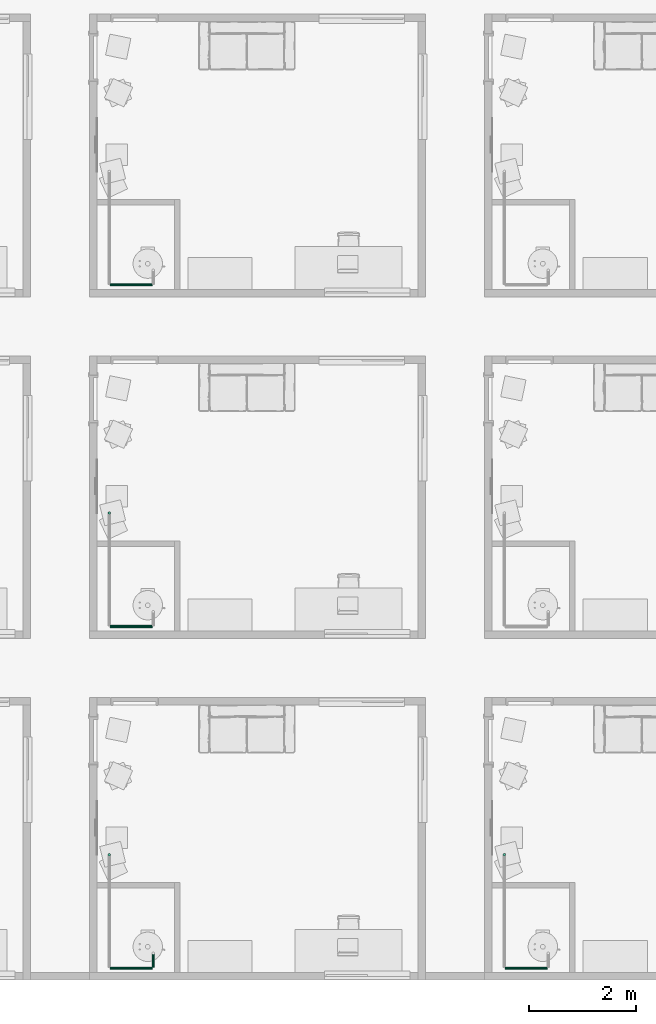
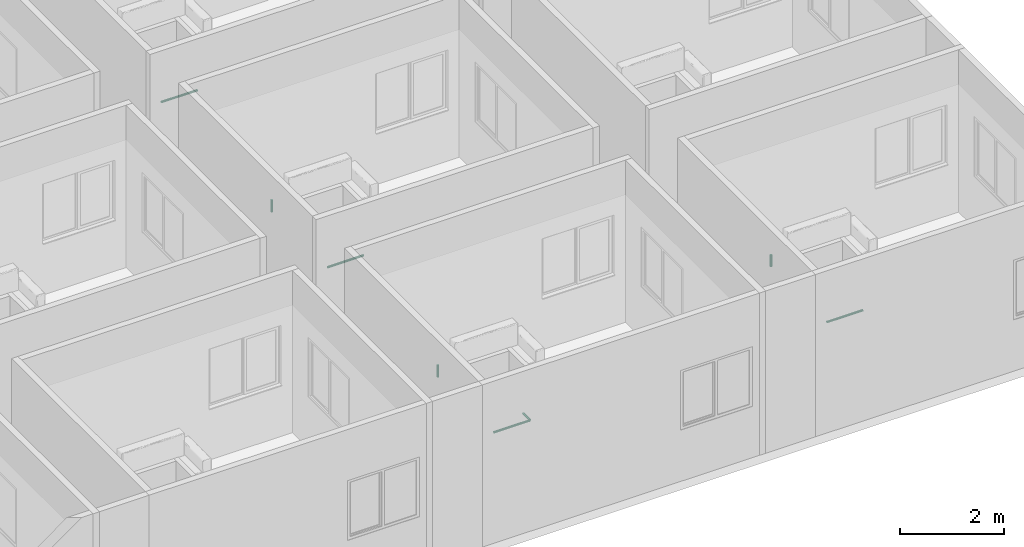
# One storey, part 49 of 69: 8 pipe segments.
"""IFC4 building model written with IfcOpenShell, lengths in centimetres."""

from ifc_helpers import new_model, entity, si_unit, converted_unit, derived_unit, direction, frame, origin, place, context, subcontext, project, spatial, arc, indexed_curve, outline, extrude, type_object, element, save


model = new_model("IFC4")

# Units and contexts
model_context = context("Model", 3, precision=0.001, world=origin(), true_north=direction((6.123233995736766e-17, 1.0)))
body_context = subcontext(model_context, "Body", "Model", "MODEL_VIEW")
ifc_project = project(units=[si_unit("LENGTHUNIT", "METRE", prefix="CENTI"), si_unit("AREAUNIT", "SQUARE_METRE"), si_unit("VOLUMEUNIT", "CUBIC_METRE"), derived_unit("THERMALTRANSMITTANCEUNIT", [(si_unit("MASSUNIT", "GRAM", prefix="KILO"), 1), (si_unit("THERMODYNAMICTEMPERATUREUNIT", "KELVIN"), -1), (si_unit("TIMEUNIT", "SECOND"), -3)]), converted_unit("PLANEANGLEUNIT", "DEGREE", entity("IfcPlaneAngleMeasure", 0.017453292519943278), si_unit("PLANEANGLEUNIT", "RADIAN"), dimensions=[0, 0, 0, 0, 0, 0, 0]), derived_unit("MASSDENSITYUNIT", [(si_unit("MASSUNIT", "GRAM", prefix="KILO"), 1), (si_unit("LENGTHUNIT", "METRE"), -3)]), derived_unit("VAPORPERMEABILITYUNIT", [(si_unit("LENGTHUNIT", "METRE"), -1), (si_unit("TIMEUNIT", "SECOND"), 1)]), derived_unit("USERDEFINED", [(si_unit("MASSUNIT", "GRAM", prefix="KILO"), 1), (si_unit("TIMEUNIT", "SECOND"), -3), (si_unit("LENGTHUNIT", "METRE"), 3), (si_unit("ELECTRICCURRENTUNIT", "AMPERE"), -2)]), derived_unit("SPECIFICHEATCAPACITYUNIT", [(si_unit("THERMODYNAMICTEMPERATUREUNIT", "KELVIN"), -1), (si_unit("LENGTHUNIT", "METRE"), 2), (si_unit("TIMEUNIT", "SECOND"), -2)]), derived_unit("THERMALCONDUCTANCEUNIT", [(si_unit("MASSUNIT", "GRAM", prefix="KILO"), 1), (si_unit("THERMODYNAMICTEMPERATUREUNIT", "KELVIN"), -1), (si_unit("TIMEUNIT", "SECOND"), -3), (si_unit("LENGTHUNIT", "METRE"), 1)]), si_unit("PRESSUREUNIT", "PASCAL"), derived_unit("MODULUSOFELASTICITYUNIT", [(si_unit("MASSUNIT", "GRAM", prefix="KILO"), 1), (si_unit("LENGTHUNIT", "METRE"), -1), (si_unit("TIMEUNIT", "SECOND"), -2)]), derived_unit("THERMALEXPANSIONCOEFFICIENTUNIT", [(si_unit("THERMODYNAMICTEMPERATUREUNIT", "KELVIN"), -1)])], contexts=[model_context])

# Site, building, storey
site_placement = place(None, origin())
site = spatial("IfcSite", under=ifc_project, at=site_placement, Name="Default", CompositionType="ELEMENT")
building_placement = place(site_placement, origin())
building = spatial("IfcBuilding", under=site, at=building_placement, Name="IDS Escape Game Building", CompositionType="ELEMENT")
storey_placement = place(building_placement, origin())
storey = spatial("IfcBuildingStorey", under=building, at=storey_placement, Name="00_Ground Floor", CompositionType="ELEMENT", Elevation=0.0)

# Pipe segments
pipe_segment_type = type_object("IfcPipeSegmentType", Name="Pipe Types:Piping Aluminum", PredefinedType="NOTDEFINED")
pipe_segment_1_placement = place(storey_placement, origin())
element("IfcPipeSegment", 1, at=pipe_segment_1_placement, inside=storey, type_object=pipe_segment_type, Name="Pipe Types:Piping Aluminum", ObjectType="Pipe Types:Piping Aluminum", PredefinedType="NOTDEFINED", context=body_context, shape_type="SweptSolid", body=[
    extrude(outline(indexed_curve([(2.412999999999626, -2.165734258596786e-13), (1.7062486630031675, 1.7062486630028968), (3.790034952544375e-13, 2.4130000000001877), (-1.7062486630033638, 1.7062486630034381), (-2.4130000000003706, -1.6243006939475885e-13), (-1.706248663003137, -1.7062486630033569), (3.654676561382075e-13, -2.412999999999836), (1.7062486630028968, -1.7062486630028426)], segments=[arc(1, 2, 3), arc(3, 4, 5), arc(5, 6, 7), arc(7, 8, 1)], self_intersect=False)), frame((3721.1467168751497, 21.264827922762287, 242.0), z_axis=(1.0, 0.0, 0.0), x_axis=(0.0, 1.0, 0.0)), (0.0, 0.0, 1.0), 79.90328312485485),
])
pipe_segment_2_placement = place(storey_placement, origin())
element("IfcPipeSegment", 2, at=pipe_segment_2_placement, inside=storey, type_object=pipe_segment_type, Name="Pipe Types:Piping Aluminum", ObjectType="Pipe Types:Piping Aluminum", PredefinedType="NOTDEFINED", context=body_context, shape_type="SweptSolid", body=[
    extrude(outline(indexed_curve([(2.4129999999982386, -2.7071678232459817e-14), (1.706248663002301, 1.7062486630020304), (1.2994405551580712e-12, 2.412999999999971), (-1.7062486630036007, 1.7062486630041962), (-2.413000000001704, -2.7071678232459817e-14), (-1.7062486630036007, -1.7062486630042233), (1.2994405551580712e-12, -2.413000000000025), (1.706248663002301, -1.7062486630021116)], segments=[arc(1, 2, 3), arc(3, 4, 5), arc(5, 6, 7), arc(7, 8, 1)], self_intersect=False)), frame((3802.150000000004, 22.364827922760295, 242.0), z_axis=(0.0, 1.0, 0.0), x_axis=(-1.0, 0.0, 0.0)), (0.0, 0.0, 1.0), 25.435172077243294),
])
pipe_segment_3_placement = place(storey_placement, origin())
element("IfcPipeSegment", 3, at=pipe_segment_3_placement, inside=storey, type_object=pipe_segment_type, Name="Pipe Types:Piping Aluminum", ObjectType="Pipe Types:Piping Aluminum", PredefinedType="NOTDEFINED", context=body_context, shape_type="SweptSolid", body=[
    extrude(outline(indexed_curve([(2.412999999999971, -2.7071678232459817e-14), (1.7062486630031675, 1.7062486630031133), (0.0, 2.412999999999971), (-1.7062486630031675, 1.7062486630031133), (-2.412999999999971, 0.0), (-1.7062486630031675, -1.7062486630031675), (0.0, -2.413000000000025), (1.7062486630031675, -1.7062486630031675)], segments=[arc(1, 2, 3), arc(3, 4, 5), arc(5, 6, 7), arc(7, 8, 1)], self_intersect=False)), frame((3720.0467168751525, 233.26482792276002, 244.0999999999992), z_axis=(0.0, 0.0, 1.0), x_axis=(-1.0, 0.0, 0.0)), (0.0, 0.0, 1.0), 27.90000000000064),
])
pipe_segment_4_placement = place(storey_placement, origin())
element("IfcPipeSegment", 4, at=pipe_segment_4_placement, inside=storey, type_object=pipe_segment_type, Name="Pipe Types:Piping Aluminum", ObjectType="Pipe Types:Piping Aluminum", PredefinedType="NOTDEFINED", context=body_context, shape_type="SweptSolid", body=[
    extrude(outline(indexed_curve([(2.412999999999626, -2.165734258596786e-13), (1.7062486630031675, 1.7062486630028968), (3.790034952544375e-13, 2.4130000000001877), (-1.7062486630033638, 1.7062486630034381), (-2.4130000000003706, -1.6243006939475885e-13), (-1.706248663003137, -1.7062486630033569), (3.654676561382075e-13, -2.412999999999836), (1.7062486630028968, -1.7062486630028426)], segments=[arc(1, 2, 3), arc(3, 4, 5), arc(5, 6, 7), arc(7, 8, 1)], self_intersect=False)), frame((4459.146716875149, 21.264827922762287, 242.0), z_axis=(1.0, 0.0, 0.0), x_axis=(0.0, 1.0, 0.0)), (0.0, 0.0, 1.0), 79.90328312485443),
])
pipe_segment_5_placement = place(storey_placement, origin())
element("IfcPipeSegment", 5, at=pipe_segment_5_placement, inside=storey, type_object=pipe_segment_type, Name="Pipe Types:Piping Aluminum", ObjectType="Pipe Types:Piping Aluminum", PredefinedType="NOTDEFINED", context=body_context, shape_type="SweptSolid", body=[
    extrude(outline(indexed_curve([(2.4130000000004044, -2.7071678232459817e-14), (1.7062486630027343, 1.7062486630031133), (0.0, 2.412999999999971), (-1.7062486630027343, 1.7062486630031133), (-2.4130000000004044, 0.0), (-1.7062486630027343, -1.7062486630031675), (0.0, -2.413000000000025), (1.7062486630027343, -1.7062486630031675)], segments=[arc(1, 2, 3), arc(3, 4, 5), arc(5, 6, 7), arc(7, 8, 1)], self_intersect=False)), frame((4458.046716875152, 233.26482792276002, 244.0999999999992), z_axis=(0.0, 0.0, 1.0), x_axis=(-1.0, 0.0, 0.0)), (0.0, 0.0, 1.0), 27.90000000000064),
])
pipe_segment_6_placement = place(storey_placement, origin())
element("IfcPipeSegment", 6, at=pipe_segment_6_placement, inside=storey, type_object=pipe_segment_type, Name="Pipe Types:Piping Aluminum", ObjectType="Pipe Types:Piping Aluminum", PredefinedType="NOTDEFINED", context=body_context, shape_type="SweptSolid", body=[
    extrude(outline(indexed_curve([(2.4129999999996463, -2.165734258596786e-13), (1.7062486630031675, 1.7062486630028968), (4.331468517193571e-13, 2.4130000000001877), (-1.7062486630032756, 1.7062486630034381), (-2.413000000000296, -1.6243006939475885e-13), (-1.706248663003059, -1.7062486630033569), (4.3314685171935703e-13, -2.412999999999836), (1.7062486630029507, -1.7062486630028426)], segments=[arc(1, 2, 3), arc(3, 4, 5), arc(5, 6, 7), arc(7, 8, 1)], self_intersect=False)), frame((3721.1467168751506, 659.2648279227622, 242.0), z_axis=(1.0, 0.0, 0.0), x_axis=(0.0, 1.0, 0.0)), (0.0, 0.0, 1.0), 79.90328312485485),
])
pipe_segment_7_placement = place(storey_placement, origin())
element("IfcPipeSegment", 7, at=pipe_segment_7_placement, inside=storey, type_object=pipe_segment_type, Name="Pipe Types:Piping Aluminum", ObjectType="Pipe Types:Piping Aluminum", PredefinedType="NOTDEFINED", context=body_context, shape_type="SweptSolid", body=[
    extrude(outline(indexed_curve([(2.412999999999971, 0.0), (1.7062486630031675, 1.7062486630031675), (0.0, 2.412999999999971), (-1.7062486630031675, 1.7062486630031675), (-2.412999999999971, 0.0), (-1.7062486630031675, -1.7062486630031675), (0.0, -2.412999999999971), (1.7062486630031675, -1.7062486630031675)], segments=[arc(1, 2, 3), arc(3, 4, 5), arc(5, 6, 7), arc(7, 8, 1)], self_intersect=False)), frame((3720.046716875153, 871.26482792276, 244.0999999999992), z_axis=(0.0, 0.0, 1.0), x_axis=(-1.0, 0.0, 0.0)), (0.0, 0.0, 1.0), 27.90000000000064),
])
pipe_segment_8_placement = place(storey_placement, origin())
element("IfcPipeSegment", 8, at=pipe_segment_8_placement, inside=storey, type_object=pipe_segment_type, Name="Pipe Types:Piping Aluminum", ObjectType="Pipe Types:Piping Aluminum", PredefinedType="NOTDEFINED", context=body_context, shape_type="SweptSolid", body=[
    extrude(outline(indexed_curve([(2.412999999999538, -2.165734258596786e-13), (1.7062486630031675, 1.7062486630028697), (4.331468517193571e-13, 2.4130000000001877), (-1.706248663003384, 1.7062486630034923), (-2.4130000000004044, -1.6243006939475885e-13), (-1.7062486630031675, -1.706248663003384), (4.3314685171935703e-13, -2.412999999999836), (1.7062486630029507, -1.7062486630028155)], segments=[arc(1, 2, 3), arc(3, 4, 5), arc(5, 6, 7), arc(7, 8, 1)], self_intersect=False)), frame((3721.1467168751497, 1297.2648279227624, 242.0), z_axis=(1.0, 0.0, 0.0), x_axis=(0.0, 1.0, 0.0)), (0.0, 0.0, 1.0), 79.90328312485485),
])

save(model, "model.ifc")
